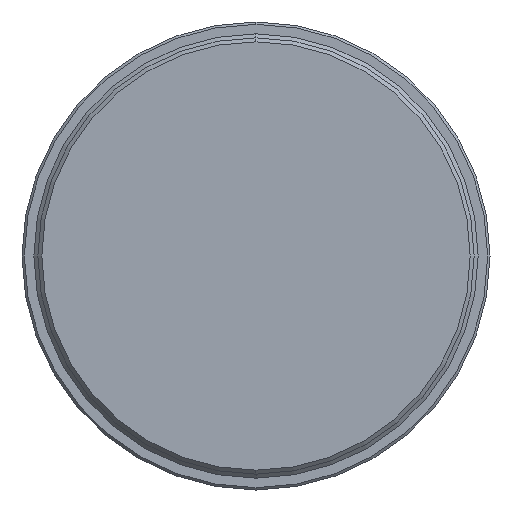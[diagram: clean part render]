
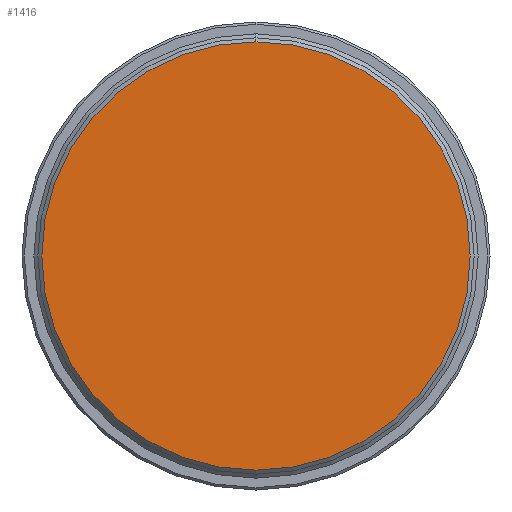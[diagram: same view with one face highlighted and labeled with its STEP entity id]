
A CAD part, left-side view. The second image highlights one B-rep face of the part: STEP entity #1416.
In plain terms, the highlighted planar face has unit normal (-1, 0, 0).
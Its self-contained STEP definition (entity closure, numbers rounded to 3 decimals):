
#40 = VERTEX_POINT ( 'NONE', #1425 ) ;
#91 = CARTESIAN_POINT ( 'NONE',  ( 0., 0., 0. ) ) ;
#195 = AXIS2_PLACEMENT_3D ( 'NONE', #91, #988, #217 ) ;
#217 = DIRECTION ( 'NONE',  ( 0., 0., -1. ) ) ;
#233 = FACE_OUTER_BOUND ( 'NONE', #339, .T. ) ;
#327 = DIRECTION ( 'NONE',  ( -1., 0., 0. ) ) ;
#333 = CARTESIAN_POINT ( 'NONE',  ( 0., 0., 0. ) ) ;
#339 = EDGE_LOOP ( 'NONE', ( #407, #534 ) ) ;
#407 = ORIENTED_EDGE ( 'NONE', *, *, #535, .T. ) ;
#534 = ORIENTED_EDGE ( 'NONE', *, *, #1197, .T. ) ;
#535 = EDGE_CURVE ( 'NONE', #543, #40, #1388, .T. ) ;
#543 = VERTEX_POINT ( 'NONE', #1613 ) ;
#576 = AXIS2_PLACEMENT_3D ( 'NONE', #1092, #327, #1207 ) ;
#673 = AXIS2_PLACEMENT_3D ( 'NONE', #333, #1098, #1386 ) ;
#988 = DIRECTION ( 'NONE',  ( 1., 0., 0. ) ) ;
#1092 = CARTESIAN_POINT ( 'NONE',  ( 0., 0., 0. ) ) ;
#1098 = DIRECTION ( 'NONE',  ( -1., 0., 0. ) ) ;
#1158 = CIRCLE ( 'NONE', #576, 27. ) ;
#1197 = EDGE_CURVE ( 'NONE', #40, #543, #1158, .T. ) ;
#1207 = DIRECTION ( 'NONE',  ( 0., 0., 1. ) ) ;
#1386 = DIRECTION ( 'NONE',  ( 0., 0., 1. ) ) ;
#1388 = CIRCLE ( 'NONE', #673, 27. ) ;
#1416 = ADVANCED_FACE ( 'NONE', ( #233 ), #1633, .F. ) ;
#1425 = CARTESIAN_POINT ( 'NONE',  ( 0., 0., 27. ) ) ;
#1613 = CARTESIAN_POINT ( 'NONE',  ( 0., 0., -27. ) ) ;
#1633 = PLANE ( 'NONE',  #195 ) ;
